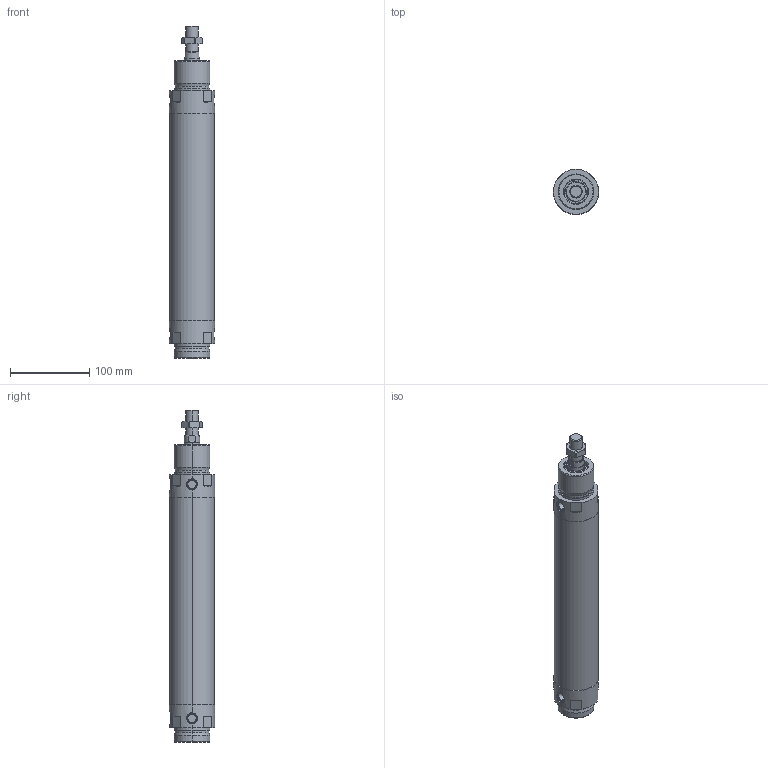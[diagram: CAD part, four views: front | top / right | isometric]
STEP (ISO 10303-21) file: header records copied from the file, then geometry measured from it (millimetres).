
FILE_DESCRIPTION (( 'STEP AP214' ), '1' );
FILE_NAME ('2401155n.STEP', '2016-11-03T15:49:08', ( '' ), ( '' ), 'SwSTEP 2.0', 'SolidWorks 2016', '' );
FILE_SCHEMA (( 'AUTOMOTIVE_DESIGN' ));
Length unit declared in the file: millimetre
Products named in the file (1): 2401155n
Bounding box: 57 x 57 x 420 mm (x, y, z)
Volume: 879352.2 mm3; surface area: 87192.7 mm2
Topology: 3 solids, 4 shells, 172 faces, 382 edges, 234 vertices
Faces by surface type: cylinder 65, plane 53, cone 48, torus 6
Entity records: 7385 total; most frequent: CARTESIAN_POINT 1606, DIRECTION 852, ORIENTED_EDGE 764, EDGE_CURVE 382, AXIS2_PLACEMENT_3D 354, VERTEX_POINT 234, EDGE_LOOP 190, CIRCLE 181
